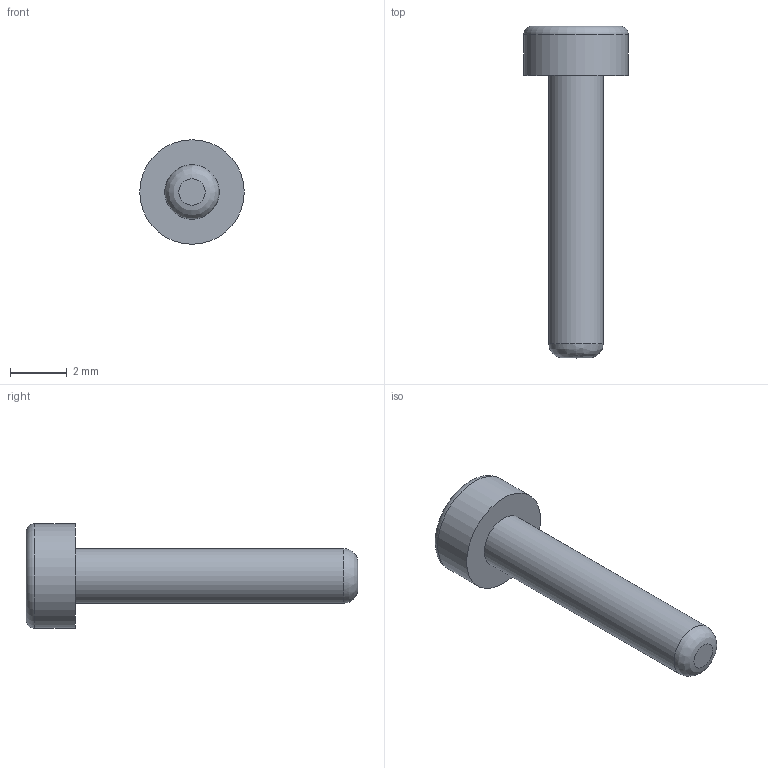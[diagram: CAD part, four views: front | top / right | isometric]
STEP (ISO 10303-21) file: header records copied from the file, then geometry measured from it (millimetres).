
FILE_DESCRIPTION(/* description */ (''),/* implementation_level */ '2;1');
FILE_NAME(/* name */ 'C:/Users/priba/Documents/Temp/Bolt2-10.step',/* time_stamp */ '2020-04-08T12:45:51+02:00',/* author */ (''),/* organization */ (''),/* preprocessor_version */ 'ST-DEVELOPER v18',/* originating_system */ 'Autodesk Translation Framework v8.12.0.6',/* authorisation */ '');
FILE_SCHEMA (('AUTOMOTIVE_DESIGN { 1 0 10303 214 3 1 1 }'));
Length unit declared in the file: millimetre
Products named in the file (1): Bolt2-10
Bounding box: 3.7 x 11.75 x 3.7 mm (x, y, z)
Volume: 44.9 mm3; surface area: 110 mm2
Topology: 1 solids, 1 shells, 20 faces, 52 edges, 36 vertices
Faces by surface type: plane 16, cylinder 2, bspline 1, torus 1
Full cylindrical faces by diameter (mm): 1.933 x1, 3.7 x1
Entity records: 677 total; most frequent: CARTESIAN_POINT 135, DIRECTION 106, ORIENTED_EDGE 104, EDGE_CURVE 52, LINE 38, VECTOR 38, VERTEX_POINT 36, AXIS2_PLACEMENT_3D 34
